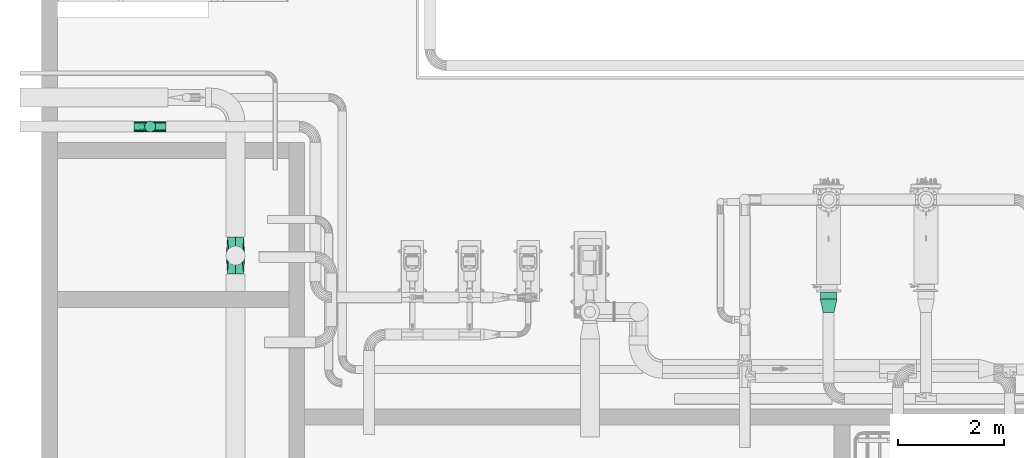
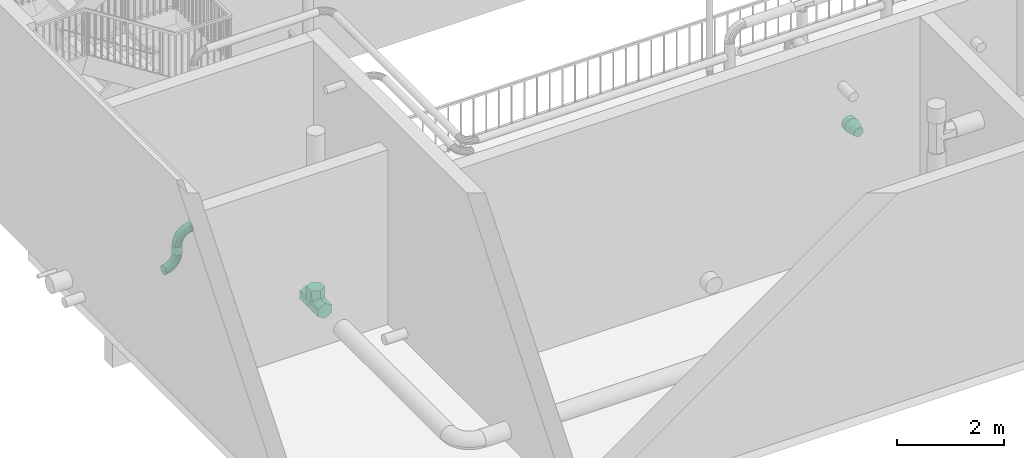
# One storey, part 16 of 28: 4 flow fittings, 2 flow segments.
"""IFC2X3 building model written with IfcOpenShell, lengths in millimetres."""

import ifcopenshell
import ifcopenshell.guid

model = None  # the IFC model being written
_history = None  # IfcOwnerHistory: only IFC2X3 demands one
_inside = {}  # id of a spatial element -> (the spatial element, [elements in it])
_under = {}  # id of a project, library or spatial element -> (it, [spatial elements below it])
_declared = {}  # id of a project -> (the project, [libraries it declares])
_typed = {}  # id of a type object -> (the type object, [elements of that type])
_made_of = {}  # id of a material, layer set ... -> (it, [elements and type objects made of it])


def new_model(schema):
    """Start an empty IFC model of exactly this schema.

    Asked for "IFC4X3", IfcOpenShell would pick the latest addendum, in which some entities
    have other attributes; the version numbers below select the first issue.
    IFC2X3 requires an IfcOwnerHistory on every rooted entity: one is made here for all.
    """
    global model, _history
    if schema == "IFC4X3":
        model = ifcopenshell.file(schema_version=(4, 3, 0, 0))
    else:
        model = ifcopenshell.file(schema=schema)
    _inside.clear()
    _under.clear()
    _declared.clear()
    _typed.clear()
    _made_of.clear()
    _history = None
    if model.schema == "IFC2X3":
        org = make("IfcOrganization", Name="unknown")
        user = make(
            "IfcPersonAndOrganization",
            ThePerson=make("IfcPerson", FamilyName="unknown"),
            TheOrganization=org,
        )
        app = make(
            "IfcApplication",
            ApplicationDeveloper=org,
            Version="unknown",
            ApplicationFullName="unknown",
            ApplicationIdentifier="unknown",
        )
        _history = make(
            "IfcOwnerHistory",
            OwningUser=user,
            OwningApplication=app,
            ChangeAction="ADDED",
            CreationDate=0,
        )
    return model


def make(cls, **values):
    """One entity of the class cls with the attributes given. An attribute that is None is left unset."""
    return model.create_entity(
        cls, **{name: value for name, value in values.items() if value is not None}
    )


def entity(cls, *values):
    """Any entity or typed value of the class cls, its attributes in the order of the schema. None: left unset."""
    e = model.create_entity(cls)
    for i, value in enumerate(values):
        if value is not None:
            e[i] = value
    return e


def rooted(cls, **values):
    """An entity with a GlobalId (a new one), such as an element, a storey or a relation."""
    return make(cls, GlobalId=ifcopenshell.guid.new(), OwnerHistory=_history, **values)


def si_unit(unit_type, name, prefix=None):
    """IfcSIUnit, for example si_unit("LENGTHUNIT", "METRE", prefix="MILLI")."""
    return make("IfcSIUnit", UnitType=unit_type, Prefix=prefix, Name=name)


def converted_unit(unit_type, name, factor, base, dimensions=None, offset=None):
    """IfcConversionBasedUnit, such as the inch: factor (a typed value) times the base unit."""
    return make(
        "IfcConversionBasedUnit"
        if offset is None
        else "IfcConversionBasedUnitWithOffset",
        ConversionOffset=offset,
        Dimensions=None
        if dimensions is None
        else entity("IfcDimensionalExponents", *dimensions),
        UnitType=unit_type,
        Name=name,
        ConversionFactor=make(
            "IfcMeasureWithUnit", ValueComponent=factor, UnitComponent=base
        ),
    )


def assignment(units):
    """IfcUnitAssignment: the units of a project."""
    return None if units is None else make("IfcUnitAssignment", Units=units)


def point(xyz):
    """IfcCartesianPoint."""
    return None if xyz is None else make("IfcCartesianPoint", Coordinates=xyz)


def direction(xyz):
    """IfcDirection."""
    return None if xyz is None else make("IfcDirection", DirectionRatios=xyz)


def frame(location, z_axis=None, x_axis=None):
    """IfcAxis2Placement3D, a coordinate frame: its origin and axes. An axis left out is left unset."""
    return make(
        "IfcAxis2Placement3D",
        Location=point(location),
        Axis=direction(z_axis),
        RefDirection=direction(x_axis),
    )


def frame_2d(location, x_axis=None):
    """IfcAxis2Placement2D, a coordinate frame in the plane: its origin and x axis."""
    return make(
        "IfcAxis2Placement2D", Location=point(location), RefDirection=direction(x_axis)
    )


def origin():
    """The frame at (0, 0, 0) with its axes left unset."""
    return frame((0.0, 0.0, 0.0))


def origin_2d_with_axis():
    """The frame at (0, 0) in the plane with the x axis (1, 0) written out."""
    return frame_2d((0.0, 0.0), x_axis=(1.0, 0.0))


def place(relative_to, where):
    """IfcLocalPlacement: puts the frame where relative to a parent placement (None: the world)."""
    return make(
        "IfcLocalPlacement", PlacementRelTo=relative_to, RelativePlacement=where
    )


def context(
    kind, dimensions, precision=None, world=None, true_north=None, identifier=None
):
    """IfcGeometricRepresentationContext, for example the 3D "Model" context."""
    return make(
        "IfcGeometricRepresentationContext",
        ContextIdentifier=identifier,
        ContextType=kind,
        CoordinateSpaceDimension=dimensions,
        Precision=precision,
        WorldCoordinateSystem=world,
        TrueNorth=true_north,
    )


def subcontext(parent, identifier, kind, view, scale=None):
    """IfcGeometricRepresentationSubContext, for example "Body" below "Model"."""
    return make(
        "IfcGeometricRepresentationSubContext",
        ContextIdentifier=identifier,
        ContextType=kind,
        ParentContext=parent,
        TargetScale=scale,
        TargetView=view,
    )


def project(units=None, contexts=None):
    """IfcProject with its units and contexts."""
    return rooted(
        "IfcProject",
        Name="project",
        RepresentationContexts=contexts,
        UnitsInContext=assignment(units),
    )


def spatial(cls, under=None, at=None, **own):
    """A site, building, storey or space (cls), placed at a placement, below another one or the project."""
    s = rooted(cls, ObjectPlacement=at, **own)
    if under is not None:
        _under.setdefault(under.id(), (under, []))[1].append(s)
    return s


def profile(cls, at=None, kind="AREA", **sizes):
    """A parametric profile (cls). Its sizes go by their IFC names, for example OverallWidth=200.0."""
    return make(cls, ProfileType=kind, Position=at, **sizes)


def circle(**sizes):
    """IfcCircleProfileDef."""
    return profile("IfcCircleProfileDef", **sizes)


def extrude(swept, where, along, depth):
    """IfcExtrudedAreaSolid: the profile swept, set in the frame where, extruded along a direction by depth."""
    return make(
        "IfcExtrudedAreaSolid",
        SweptArea=swept,
        Position=where,
        ExtrudedDirection=direction(along),
        Depth=depth,
    )


def faces_of(points, faces, orient=None, outer=None):
    """IfcFace entities. A face is a list of loops; a loop is a list of indices into points, from 0.

    orient and outer hold one flag for each loop. By default every Orientation is true, the
    first loop of a face is its IfcFaceOuterBound and the others are IfcFaceBound.
    """
    made = []
    for i, loops in enumerate(faces):
        bounds = []
        for j, loop in enumerate(loops):
            is_outer = j == 0 if outer is None else outer[i][j]
            bounds.append(
                make(
                    "IfcFaceOuterBound" if is_outer else "IfcFaceBound",
                    Bound=make("IfcPolyLoop", Polygon=[points[k] for k in loop]),
                    Orientation=True if orient is None else orient[i][j],
                )
            )
        made.append(make("IfcFace", Bounds=bounds))
    return made


def faceted_brep(points, faces, orient=None, outer=None, voids=None):
    """IfcFacetedBrep: a solid bounded by flat faces; with voids (closed shells), ...WithVoids."""
    shared = [point(p) for p in points]
    hull = make("IfcClosedShell", CfsFaces=faces_of(shared, faces, orient, outer))
    if voids is None:
        return make("IfcFacetedBrep", Outer=hull)
    return make(
        "IfcFacetedBrepWithVoids",
        Outer=hull,
        Voids=[
            make(cls, CfsFaces=faces_of(shared, fs, o, b)) for cls, fs, o, b in voids
        ],
    )


def shape(context_of_items, identifier, shape_type, items):
    """IfcShapeRepresentation: the items that make up one representation, for example the "Body"."""
    return make(
        "IfcShapeRepresentation",
        ContextOfItems=context_of_items,
        RepresentationIdentifier=identifier,
        RepresentationType=shape_type,
        Items=items,
    )


def source(mapping_origin, context_of_items, identifier, shape_type, items):
    """IfcRepresentationMap: a shape defined once, which mapped items show again and again."""
    return make(
        "IfcRepresentationMap",
        MappingOrigin=mapping_origin,
        MappedRepresentation=shape(context_of_items, identifier, shape_type, items),
    )


def transform(
    local_origin,
    x_axis=None,
    y_axis=None,
    z_axis=None,
    scale=None,
    scale2=None,
    scale3=None,
    uniform=True,
):
    """IfcCartesianTransformationOperator3D, or its non-uniform kind. x_axis, y_axis, z_axis: its Axis1, 2, 3."""
    if uniform:
        return make(
            "IfcCartesianTransformationOperator3D",
            Axis1=direction(x_axis),
            Axis2=direction(y_axis),
            LocalOrigin=point(local_origin),
            Scale=scale,
            Axis3=direction(z_axis),
        )
    return make(
        "IfcCartesianTransformationOperator3DnonUniform",
        Axis1=direction(x_axis),
        Axis2=direction(y_axis),
        LocalOrigin=point(local_origin),
        Scale=scale,
        Axis3=direction(z_axis),
        Scale2=scale2,
        Scale3=scale3,
    )


def mapped(mapping_source, mapping_target):
    """IfcMappedItem: shows the shape of a source again, moved by a transform."""
    return make(
        "IfcMappedItem", MappingSource=mapping_source, MappingTarget=mapping_target
    )


def material(Name=None, Category=None):
    """IfcMaterial."""
    return make("IfcMaterial", Name=Name, Category=Category)


def made_of(thing, what):
    """Note that an element or type object is made of a material, layer set ...; save() writes the relation."""
    if what is not None:
        _made_of.setdefault(what.id(), (what, []))[1].append(thing)
    return thing


def type_object(cls, material=None, **own):
    """A type object (cls), such as IfcWallType, which elements share."""
    return made_of(rooted(cls, **own), material)


def type_shapes(of_type, sources):
    """Give a type object the sources (RepresentationMaps) that its elements show as mapped items."""
    of_type.RepresentationMaps = sources


def element(
    cls,
    number,
    at=None,
    inside=None,
    cuts=None,
    type_object=None,
    material=None,
    context=None,
    identifier="Body",
    shape_type=None,
    held_by="IfcProductDefinitionShape",
    body=None,
    shapes=None,
    **own,
):
    """One element of the class cls, such as IfcWall. Its Tag is "e" and its number.

    at: its placement. inside: the storey or other place that contains it. cuts: it is an
    opening in that element (IfcRelVoidsElement). A single representation is given by context,
    identifier, shape_type and body (its items); several are given by shapes. held_by: the class
    of the entity that holds the representations. save() writes the other relations.
    """
    e = rooted(cls, Tag="e%d" % number, ObjectPlacement=at, **own)
    if body is not None:
        shapes = [shape(context, identifier, shape_type, body)]
    if shapes is not None:
        e.Representation = make(held_by, Representations=shapes)
    if inside is not None:
        _inside.setdefault(inside.id(), (inside, []))[1].append(e)
    if cuts is not None:
        rooted(
            "IfcRelVoidsElement", RelatingBuildingElement=cuts, RelatedOpeningElement=e
        )
    if type_object is not None:
        _typed.setdefault(type_object.id(), (type_object, []))[1].append(e)
    return made_of(e, material)


def aggregate(whole, parts):
    """IfcRelAggregates: a whole, such as a stair, and the parts it consists of."""
    return rooted("IfcRelAggregates", RelatingObject=whole, RelatedObjects=parts)


def save(model, path):
    """Write the relations noted so far, then the file.

    IfcRelAggregates (storeys below a building ...), IfcRelContainedInSpatialStructure (elements
    in a storey), IfcRelDefinesByType, IfcRelAssociatesMaterial and IfcRelDeclares: one each for
    every whole, place, type object, material and project.
    """
    for whole, parts in _under.values():
        aggregate(whole, parts)
    for where, things in _inside.values():
        rooted(
            "IfcRelContainedInSpatialStructure",
            RelatedElements=things,
            RelatingStructure=where,
        )
    for kind, things in _typed.values():
        rooted("IfcRelDefinesByType", RelatedObjects=things, RelatingType=kind)
    for what, things in _made_of.values():
        rooted("IfcRelAssociatesMaterial", RelatedObjects=things, RelatingMaterial=what)
    for by, libraries in _declared.values():
        rooted("IfcRelDeclares", RelatingContext=by, RelatedDefinitions=libraries)
    model.write(path)


model = new_model("IFC2X3")

# Units and contexts
model_context = context("Model", 3, precision=0.01, world=origin(), true_north=direction((6.123031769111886e-17, 1.0)))
body_context = subcontext(model_context, "Body", "Model", "MODEL_VIEW")
ifc_project = project(units=[si_unit("LENGTHUNIT", "METRE", prefix="MILLI"), converted_unit("PLANEANGLEUNIT", "DEGREE", entity("IfcPlaneAngleMeasure", 0.017453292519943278), si_unit("PLANEANGLEUNIT", "RADIAN"), dimensions=[0, 0, 0, 0, 0, 0, 0]), si_unit("AREAUNIT", "SQUARE_METRE")], contexts=[model_context])

# Site, building, storey
site_placement = place(None, frame((7776.576483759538, 118.3519876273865, 0.0)))
site = spatial("IfcSite", under=ifc_project, at=site_placement, Name="Default", CompositionType="ELEMENT")
building_placement = place(site_placement, origin())
building = spatial("IfcBuilding", under=site, at=building_placement, Name="Bygning (endres i Project Information)", CompositionType="ELEMENT")
storey_placement = place(building_placement, frame((0.0, 0.0, 14000.0)))
storey = spatial("IfcBuildingStorey", under=building, at=storey_placement, Name="Plan U1 - Arbeid", CompositionType="ELEMENT", Elevation=14000.000000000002)

# Flow segments
ifc_material = material(Name="SS 2343 Rustfritt stål, prosessrør, generisk")
pipe_segment_type = type_object("IfcPipeSegmentType", Name="Pipe Types:AISI 304L Rustfritt", PredefinedType="NOTDEFINED", material=ifc_material)
flow_segment_1_placement = place(storey_placement, origin())
element("IfcFlowSegment", 1, at=flow_segment_1_placement, inside=storey, type_object=pipe_segment_type, Name="Pipe Types:AISI 304L Rustfritt", ObjectType="Pipe Types:AISI 304L Rustfritt", context=body_context, shape_type="SweptSolid", body=[
    extrude(circle(Radius=153.0, at=origin_2d_with_axis()), frame((27667.696048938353, 26559.95730578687, 903.4999999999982), z_axis=(0.0, 0.9999999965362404, 8.323172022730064e-05), x_axis=(1.0, 0.0, 0.0)), (0.0, 0.0, 1.0), 135.41027408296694),
])
flow_segment_2_placement = place(storey_placement, origin())
element("IfcFlowSegment", 2, at=flow_segment_2_placement, inside=storey, type_object=pipe_segment_type, Name="Pipe Types:AISI 304L Rustfritt", ObjectType="Pipe Types:AISI 304L Rustfritt", context=body_context, shape_type="SweptSolid", body=[
    extrude(circle(Radius=103.0, at=frame_2d((0.0, 4.331468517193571e-12), x_axis=(1.0, 0.0))), frame((14919.001374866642, 29800.75730578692, 503.0)), (0.0, 0.0, 1.0), 182.01237997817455),
])

# Flow fittings
pipe_fitting_type_1 = type_object("IfcPipeFittingType", Name="VA_prosess_rustfritt_bend_D+100:VA_prosess_rustfritt_bend_D+100", PredefinedType="NOTDEFINED", material=ifc_material)
shared_shape_1 = source(origin(), body_context, "Body", "Brep", [
    faceted_brep([(-221.96387119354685, -92.314112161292, 0.0), (-223.1404097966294, -86.39925317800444, 34.202014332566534), (-300.0, -93.96926207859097, 34.202014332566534), (-300.0, -100.0, 0.0), (-226.52811768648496, -69.36809551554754, 64.27876096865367), (-300.0, -76.60444431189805, 64.27876096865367), (-231.71838729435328, -43.274848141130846, 86.60254037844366), (-300.0, -50.0, 86.60254037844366), (-238.08519550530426, -11.266741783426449, 98.48077530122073), (-300.0, -17.36481776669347, 98.48077530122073), (-244.86061128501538, 22.79557354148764, 98.48077530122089), (-300.0, 17.36481776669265, 98.48077530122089), (-251.22741949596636, 54.80367989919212, 86.60254037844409), (-300.0, 50.0, 86.60254037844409), (-256.41768910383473, 80.89692727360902, 64.27876096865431), (-300.0, 76.60444431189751, 64.27876096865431), (-259.8053969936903, 97.92808493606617, 34.202014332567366), (-300.0, 93.96926207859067, 34.202014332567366), (-260.9819355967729, 103.84294391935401, 0.0), (-300.0, 100.0, 0.0), (-259.8053969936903, 97.92808493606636, -34.20201433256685), (-300.0, 93.96926207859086, -34.20201433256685), (-256.4176891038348, 80.89692727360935, -64.2787609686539), (-300.0, 76.60444431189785, -64.2787609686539), (-251.22741949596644, 54.80367989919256, -86.60254037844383), (-300.0, 50.0, -86.60254037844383), (-244.86061128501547, 22.795573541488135, -98.48077530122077), (-300.0, 17.364817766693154, -98.48077530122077), (-238.08519550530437, -11.26674178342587, -98.48077530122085), (-300.0, -17.36481776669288, -98.48077530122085), (-231.71838729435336, -43.27484814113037, -86.60254037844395), (-300.0, -50.0, -86.60254037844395), (-226.52811768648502, -69.3680955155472, -64.27876096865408), (-300.0, -76.6044443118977, -64.27876096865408), (-223.14040979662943, -86.39925317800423, -34.2020143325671), (-300.0, -93.96926207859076, -34.2020143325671), (-146.9266270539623, -69.55181300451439, 0.0), (-149.2344905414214, -63.98013767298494, 34.202014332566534), (-155.87971860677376, -47.937137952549, 64.27876096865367), (-166.06079867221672, -23.357836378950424, 86.60254037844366), (-178.54974222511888, 6.79314052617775, 98.48077530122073), (-191.8401983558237, 38.87913996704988, 98.48077530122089), (-204.32914190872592, 69.03011687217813, 86.60254037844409), (-214.51022197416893, 93.6094184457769, 64.27876096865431), (-221.15545003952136, 109.65241816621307, 34.202014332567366), (-223.46331352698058, 115.2240934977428, 0.0), (-221.15545003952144, 109.65241816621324, -34.20201433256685), (-214.51022197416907, 93.60941844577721, -64.2787609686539), (-204.3291419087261, 69.03011687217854, -86.60254037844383), (-191.8401983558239, 38.87913996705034, -98.48077530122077), (-178.5497422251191, 6.7931405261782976, -98.48077530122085), (-166.0607986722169, -23.357836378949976, -86.60254037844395), (-155.8797186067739, -47.937137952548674, -64.27876096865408), (-149.23449054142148, -63.98013767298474, -34.2020143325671), (-77.77190679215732, -32.58784492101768, 0.0), (-81.12240526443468, -27.573469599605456, 34.202014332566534), (-90.76978111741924, -13.135151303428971, 64.27876096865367), (-105.5504184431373, 8.985635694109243, 86.60254037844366), (-123.68155424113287, 36.120798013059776, 98.48077530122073), (-142.97630594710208, 64.997434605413, 98.48077530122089), (-161.1074417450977, 92.13259692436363, 86.60254037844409), (-175.88807907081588, 114.253383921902, 64.27876096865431), (-185.53545492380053, 128.69170221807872, 34.202014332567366), (-188.88595339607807, 133.70607753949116, 0.0), (-185.53545492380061, 128.69170221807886, -34.20201433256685), (-175.88807907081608, 114.25338392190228, -64.2787609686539), (-161.10744174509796, 92.132596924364, -86.60254037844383), (-142.97630594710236, 64.99743460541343, -98.48077530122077), (-123.68155424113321, 36.120798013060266, -98.48077530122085), (-105.55041844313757, 8.985635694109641, -86.60254037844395), (-90.76978111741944, -13.135151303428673, -64.27876096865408), (-81.12240526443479, -27.573469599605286, -34.2020143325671), (-17.15728752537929, 17.157287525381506, 0.0), (-21.421663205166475, 21.42166320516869, 34.202014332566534), (-33.70044360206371, 33.700443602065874, 64.27876096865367), (-52.51262658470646, 52.512626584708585, 86.60254037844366), (-75.58918524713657, 75.58918524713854, 98.48077530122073), (-100.14674604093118, 100.14674604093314, 98.48077530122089), (-123.22330470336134, 123.22330470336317, 86.60254037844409), (-142.03548768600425, 142.035487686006, 64.27876096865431), (-154.3142680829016, 154.3142680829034, 34.202014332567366), (-158.578643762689, 158.57864376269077, 0.0), (-154.31426808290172, 154.31426808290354, -34.20201433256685), (-142.03548768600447, 142.03548768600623, -64.2787609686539), (-123.22330470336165, 123.2233047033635, -86.60254037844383), (-100.14674604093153, 100.1467460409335, -98.48077530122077), (-75.58918524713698, 75.58918524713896, -98.48077530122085), (-52.51262658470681, 52.512626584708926, -86.60254037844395), (-33.700443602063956, 33.70044360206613, -64.27876096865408), (-21.42166320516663, 21.421663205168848, -34.2020143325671), (32.58784492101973, 77.77190679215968, 0.0), (27.573469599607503, 81.12240526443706, 34.202014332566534), (13.135151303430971, 90.76978111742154, 64.27876096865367), (-8.985635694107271, 105.55041844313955, 86.60254037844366), (-36.1207980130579, 123.68155424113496, 98.48077530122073), (-64.99743460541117, 142.97630594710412, 98.48077530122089), (-92.13259692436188, 161.10744174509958, 86.60254037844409), (-114.25338392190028, 175.88807907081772, 64.27876096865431), (-128.69170221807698, 185.53545492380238, 34.202014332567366), (-133.70607753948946, 188.8859533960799, 0.0), (-128.69170221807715, 185.5354549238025, -34.20201433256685), (-114.25338392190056, 175.8880790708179, -64.2787609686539), (-92.13259692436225, 161.10744174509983, -86.60254037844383), (-64.99743460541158, 142.9763059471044, -98.48077530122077), (-36.12079801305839, 123.68155424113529, -98.48077530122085), (-8.985635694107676, 105.55041844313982, -86.60254037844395), (13.13515130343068, 90.76978111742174, -64.27876096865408), (27.573469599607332, 81.12240526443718, -34.2020143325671), (69.55181300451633, 146.92662705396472, 0.0), (63.98013767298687, 149.23449054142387, 34.202014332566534), (47.937137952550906, 155.87971860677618, 64.27876096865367), (23.357836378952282, 166.06079867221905, 86.60254037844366), (-6.793140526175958, 178.54974222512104, 98.48077530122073), (-38.879139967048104, 191.8401983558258, 98.48077530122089), (-69.03011687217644, 204.32914190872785, 86.60254037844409), (-93.60941844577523, 214.5102219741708, 64.27876096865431), (-109.65241816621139, 221.15545003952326, 34.202014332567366), (-115.22409349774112, 223.46331352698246, 0.0), (-109.65241816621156, 221.15545003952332, -34.20201433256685), (-93.60941844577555, 214.51022197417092, -64.2787609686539), (-69.03011687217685, 204.32914190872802, -86.60254037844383), (-38.87913996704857, 191.840198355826, -98.48077530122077), (-6.793140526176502, 178.54974222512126, -98.48077530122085), (23.357836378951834, 166.06079867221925, -86.60254037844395), (47.93713795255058, 155.87971860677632, -64.27876096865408), (63.98013767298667, 149.23449054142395, -34.2020143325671), (92.31411216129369, 221.96387119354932, 0.0), (86.39925317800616, 223.1404097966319, 34.202014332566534), (69.36809551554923, 226.52811768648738, 64.27876096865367), (43.27484814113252, 231.71838729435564, 86.60254037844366), (11.266741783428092, 238.08519550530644, 98.48077530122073), (-22.795573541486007, 244.86061128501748, 98.48077530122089), (-54.80367989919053, 251.22741949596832, 86.60254037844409), (-80.89692727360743, 256.4176891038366, 64.27876096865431), (-97.9280849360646, 259.80539699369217, 34.202014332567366), (-103.84294391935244, 260.9819355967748, 0.0), (-97.92808493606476, 259.8053969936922, -34.20201433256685), (-80.89692727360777, 256.41768910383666, -64.2787609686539), (-54.80367989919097, 251.2274194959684, -86.60254037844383), (-22.795573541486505, 244.8606112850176, -98.48077530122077), (11.266741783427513, 238.08519550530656, -98.48077530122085), (43.27484814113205, 231.71838729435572, -86.60254037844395), (69.36809551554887, 226.52811768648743, -64.27876096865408), (86.39925317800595, 223.14040979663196, -34.2020143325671), (100.0, 300.0, 0.0), (93.96926207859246, 300.0, 34.202014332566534), (76.60444431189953, 300.0, 64.27876096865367), (50.0, 300.0, 86.60254037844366), (17.36481776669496, 300.0, 98.48077530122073), (-17.36481776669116, 300.0, 98.48077530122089), (-50.0, 300.0, 86.60254037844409), (-76.60444431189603, 300.0, 64.27876096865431), (-93.9692620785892, 300.0, 34.202014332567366), (-100.0, 300.0, 0.0), (-93.96926207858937, 300.0, -34.20201433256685), (-76.60444431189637, 300.0, -64.2787609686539), (-50.0, 300.0, -86.60254037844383), (-17.364817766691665, 300.0, -98.48077530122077), (17.36481776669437, 300.0, -98.48077530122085), (50.0, 300.0, -86.60254037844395), (76.60444431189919, 300.0, -64.27876096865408), (93.96926207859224, 300.0, -34.2020143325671)], [[[0, 1, 2, 3]], [[1, 4, 5, 2]], [[4, 6, 7, 5]], [[6, 8, 9, 7]], [[8, 10, 11, 9]], [[10, 12, 13, 11]], [[12, 14, 15, 13]], [[14, 16, 17, 15]], [[16, 18, 19, 17]], [[18, 20, 21, 19]], [[20, 22, 23, 21]], [[22, 24, 25, 23]], [[24, 26, 27, 25]], [[26, 28, 29, 27]], [[28, 30, 31, 29]], [[30, 32, 33, 31]], [[32, 34, 35, 33]], [[34, 0, 3, 35]], [[36, 37, 1, 0]], [[37, 38, 4, 1]], [[38, 39, 6, 4]], [[39, 40, 8, 6]], [[40, 41, 10, 8]], [[41, 42, 12, 10]], [[42, 43, 14, 12]], [[43, 44, 16, 14]], [[44, 45, 18, 16]], [[45, 46, 20, 18]], [[46, 47, 22, 20]], [[47, 48, 24, 22]], [[48, 49, 26, 24]], [[49, 50, 28, 26]], [[50, 51, 30, 28]], [[51, 52, 32, 30]], [[52, 53, 34, 32]], [[53, 36, 0, 34]], [[54, 55, 37, 36]], [[55, 56, 38, 37]], [[56, 57, 39, 38]], [[57, 58, 40, 39]], [[58, 59, 41, 40]], [[59, 60, 42, 41]], [[60, 61, 43, 42]], [[61, 62, 44, 43]], [[62, 63, 45, 44]], [[63, 64, 46, 45]], [[64, 65, 47, 46]], [[65, 66, 48, 47]], [[66, 67, 49, 48]], [[67, 68, 50, 49]], [[68, 69, 51, 50]], [[69, 70, 52, 51]], [[70, 71, 53, 52]], [[71, 54, 36, 53]], [[72, 73, 55, 54]], [[73, 74, 56, 55]], [[74, 75, 57, 56]], [[75, 76, 58, 57]], [[76, 77, 59, 58]], [[77, 78, 60, 59]], [[78, 79, 61, 60]], [[79, 80, 62, 61]], [[80, 81, 63, 62]], [[81, 82, 64, 63]], [[82, 83, 65, 64]], [[83, 84, 66, 65]], [[84, 85, 67, 66]], [[85, 86, 68, 67]], [[86, 87, 69, 68]], [[87, 88, 70, 69]], [[88, 89, 71, 70]], [[89, 72, 54, 71]], [[90, 91, 73, 72]], [[91, 92, 74, 73]], [[92, 93, 75, 74]], [[93, 94, 76, 75]], [[94, 95, 77, 76]], [[95, 96, 78, 77]], [[96, 97, 79, 78]], [[97, 98, 80, 79]], [[98, 99, 81, 80]], [[99, 100, 82, 81]], [[100, 101, 83, 82]], [[101, 102, 84, 83]], [[102, 103, 85, 84]], [[103, 104, 86, 85]], [[104, 105, 87, 86]], [[105, 106, 88, 87]], [[106, 107, 89, 88]], [[107, 90, 72, 89]], [[108, 109, 91, 90]], [[109, 110, 92, 91]], [[110, 111, 93, 92]], [[111, 112, 94, 93]], [[112, 113, 95, 94]], [[113, 114, 96, 95]], [[114, 115, 97, 96]], [[115, 116, 98, 97]], [[116, 117, 99, 98]], [[117, 118, 100, 99]], [[118, 119, 101, 100]], [[119, 120, 102, 101]], [[120, 121, 103, 102]], [[121, 122, 104, 103]], [[122, 123, 105, 104]], [[123, 124, 106, 105]], [[124, 125, 107, 106]], [[125, 108, 90, 107]], [[126, 127, 109, 108]], [[127, 128, 110, 109]], [[128, 129, 111, 110]], [[129, 130, 112, 111]], [[130, 131, 113, 112]], [[131, 132, 114, 113]], [[132, 133, 115, 114]], [[133, 134, 116, 115]], [[134, 135, 117, 116]], [[135, 136, 118, 117]], [[136, 137, 119, 118]], [[137, 138, 120, 119]], [[138, 139, 121, 120]], [[139, 140, 122, 121]], [[140, 141, 123, 122]], [[141, 142, 124, 123]], [[142, 143, 125, 124]], [[143, 126, 108, 125]], [[144, 145, 127, 126]], [[145, 146, 128, 127]], [[146, 147, 129, 128]], [[147, 148, 130, 129]], [[148, 149, 131, 130]], [[149, 150, 132, 131]], [[150, 151, 133, 132]], [[151, 152, 134, 133]], [[152, 153, 135, 134]], [[153, 154, 136, 135]], [[154, 155, 137, 136]], [[155, 156, 138, 137]], [[156, 157, 139, 138]], [[157, 158, 140, 139]], [[158, 159, 141, 140]], [[159, 160, 142, 141]], [[160, 161, 143, 142]], [[161, 144, 126, 143]], [[3, 2, 5, 7, 9, 11, 13, 15, 17, 19, 21, 23, 25, 27, 29, 31, 33, 35]], [[161, 160, 159, 158, 157, 156, 155, 154, 153, 152, 151, 150, 149, 148, 147, 146, 145, 144]]]),
])
type_shapes(pipe_fitting_type_1, [shared_shape_1])
for number, where, z_axis, x_axis in (
    (3, (14919.001374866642, 29800.757305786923, 985.012379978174), (-9.313084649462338e-08, -1.0, 0.0), (-1.0, 9.313084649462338e-08, 0.0)),
    (4, (14919.001374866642, 29800.757305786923, 203.0), (0.0, 1.0, 0.0), (0.0, 0.0, -1.0)),
):
    element("IfcFlowFitting", number, at=place(storey_placement, frame(where, z_axis=z_axis, x_axis=x_axis)), inside=storey, type_object=pipe_fitting_type_1, material=ifc_material, Name="VA_prosess_rustfritt_bend_D+100:VA_prosess_rustfritt_bend_D+100", ObjectType="VA_prosess_rustfritt_bend_D+100:VA_prosess_rustfritt_bend_D+100", context=body_context, shape_type="MappedRepresentation", body=[
        mapped(shared_shape_1, transform((0.0, 0.0, 0.0), scale=1.0)),
    ])
pipe_fitting_type_2 = type_object("IfcPipeFittingType", Name="VA_prosess_rustfritt_T_D=L:T-rør_prosess_D=L", PredefinedType="NOTDEFINED", material=ifc_material)
shared_shape_2 = source(origin(), body_context, "Body", "Brep", [
    faceted_brep([(-350.0, -175.0, 0.0), (-350.0, -131.24999999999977, 75.77722283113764), (-350.0, -87.50000000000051, 151.55444566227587), (-350.0, 0.0, 151.55444566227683), (-350.0, 87.49999999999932, 151.55444566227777), (-350.0, 131.25000000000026, 75.77722283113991), (-350.0, 175.0, 0.0), (-350.0, 131.25000000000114, -75.77722283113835), (-350.0, 87.50000000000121, -151.5544456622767), (-350.0, 0.0, -151.55444566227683), (-350.0, -87.49999999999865, -151.55444566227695), (-350.0, -131.2499999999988, -75.77722283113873), (350.0, 175.0, 0.0), (350.0, 119.86366475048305, 95.49893399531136), (350.0, 87.4999999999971, 151.55444566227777), (350.0, 0.0, 151.55444566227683), (350.0, -87.50000000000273, 151.55444566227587), (350.0, -131.25000000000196, 75.77722283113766), (350.0, -175.0, 0.0), (350.0, -131.25000000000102, -75.77722283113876), (350.0, -87.50000000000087, -151.55444566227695), (350.0, 0.0, -151.55444566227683), (350.0, 87.49999999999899, -151.5544456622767), (350.0, 131.2499999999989, -75.77722283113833), (175.0, -175.0, 0.0), (158.5814013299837, -158.5814013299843, 74.00634535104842), (-175.0, -175.0, 0.0), (-158.58140132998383, -158.58140132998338, 74.00634535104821), (118.92314669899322, -118.92314669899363, 128.3833524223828), (55.11164726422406, -55.111647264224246, 166.09547355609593), (0.0, 0.0, 175.0), (-106.9956661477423, -106.99566614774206, 138.4807835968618), (-55.11164726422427, -55.11164726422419, 166.0954735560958), (-158.58140132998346, -158.58140132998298, -74.00634535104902), (55.11164726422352, -55.11164726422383, -166.09547355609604), (0.0, 0.0, -175.0), (-118.92314669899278, -118.92314669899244, -128.3833524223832), (-55.111647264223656, -55.111647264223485, -166.09547355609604), (106.99566614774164, -106.99566614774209, -138.4807835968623), (158.5814013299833, -158.58140132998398, -74.00634535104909), (87.50000000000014, -350.0, -151.5544456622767), (131.25000000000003, -350.0, -75.77722283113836), (175.0, -350.0, 0.0), (131.24999999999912, -350.0, 75.7772228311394), (87.49999999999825, -350.0, 151.55444566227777), (0.0, -350.0, 151.5544456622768), (-87.50000000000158, -350.0, 151.55444566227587), (-131.25000000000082, -350.0, 75.77722283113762), (-175.0, -350.0, 0.0), (-131.2499999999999, -350.0, -75.77722283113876), (-87.49999999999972, -350.0, -151.55444566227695), (0.0, -350.0, -151.5544456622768)], [[[0, 1, 2, 3, 4, 5, 6, 7, 8, 9, 10, 11]], [[12, 13, 14, 15, 16, 17, 18, 19, 20, 21, 22, 23]], [[24, 18, 25]], [[0, 26, 27]], [[12, 6, 5, 4, 14, 13]], [[28, 25, 17]], [[17, 16, 28]], [[0, 27, 1]], [[29, 15, 30]], [[1, 31, 2]], [[25, 18, 17]], [[31, 1, 27]], [[29, 16, 15]], [[30, 15, 14]], [[32, 30, 3]], [[2, 31, 32]], [[14, 4, 30]], [[3, 2, 32]], [[30, 4, 3]], [[28, 16, 29]], [[8, 7, 6, 12, 23, 22]], [[33, 0, 11]], [[34, 35, 21]], [[21, 20, 34]], [[8, 22, 35]], [[9, 8, 35]], [[36, 10, 37]], [[10, 9, 37]], [[37, 9, 35]], [[19, 38, 20]], [[39, 19, 18]], [[18, 24, 39]], [[33, 26, 0]], [[35, 22, 21]], [[38, 19, 39]], [[10, 36, 11]], [[11, 36, 33]], [[38, 34, 20]], [[40, 41, 42, 43, 44, 45, 46, 47, 48, 49, 50, 51]], [[27, 26, 48]], [[46, 31, 47]], [[43, 42, 25]], [[47, 31, 27]], [[27, 48, 47]], [[31, 46, 32]], [[28, 43, 25]], [[25, 42, 24]], [[45, 44, 29, 32, 46]], [[43, 28, 44]], [[29, 30, 32]], [[44, 28, 29]], [[24, 42, 39]], [[40, 38, 41]], [[49, 48, 33]], [[41, 38, 39]], [[39, 42, 41]], [[38, 40, 34]], [[36, 49, 33]], [[33, 48, 26]], [[51, 50, 37, 34, 40]], [[49, 36, 50]], [[37, 35, 34]], [[50, 36, 37]]]),
])
type_shapes(pipe_fitting_type_2, [shared_shape_2])
flow_fitting_1_placement = place(storey_placement, frame((16524.001374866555, 27376.90344361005, 278.0), z_axis=(-1.0, 0.0, 0.0), x_axis=(0.0, 1.0, 0.0)))
element("IfcFlowFitting", 5, at=flow_fitting_1_placement, inside=storey, type_object=pipe_fitting_type_2, material=ifc_material, Name="VA_prosess_rustfritt_T_D=L:T-rør_prosess_D=L", ObjectType="VA_prosess_rustfritt_T_D=L:T-rør_prosess_D=L", context=body_context, shape_type="MappedRepresentation", body=[
    mapped(shared_shape_2, transform((0.0, 0.0, 0.0), scale=1.0)),
])
pipe_fitting_type_3 = type_object("IfcPipeFittingType", Name="Overganger, konsentriske, rustfritt EN 1,4307304L:Standard", PredefinedType="NOTDEFINED", material=ifc_material)
shared_shape_3 = source(origin(), body_context, "Body", "Brep", [
    faceted_brep([(252.2000000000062, -40.97105483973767, 152.9060583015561), (252.20000000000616, -79.15000000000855, 137.09182141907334), (252.20000000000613, -111.93500346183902, 111.93500346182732), (252.20000000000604, -137.09182141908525, 79.149999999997), (252.20000000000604, -152.9060583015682, 40.971054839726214), (252.200000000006, -158.30000000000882, 0.0), (252.20000000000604, -152.90605830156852, -40.971054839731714), (252.20000000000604, -137.09182141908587, -79.1500000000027), (252.20000000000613, -111.93500346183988, -111.93500346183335), (252.20000000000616, -79.15000000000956, -137.09182141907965), (252.2000000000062, -40.97105483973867, -152.9060583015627), (252.2000000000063, 0.0, -158.30000000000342), (252.20000000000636, 40.971054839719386, -152.9060583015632), (252.2000000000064, 79.14999999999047, -137.09182141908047), (252.20000000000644, 111.93500346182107, -111.93500346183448), (252.20000000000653, 137.09182141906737, -79.15000000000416), (252.20000000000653, 152.90605830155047, -40.971054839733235), (252.20000000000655, 158.2999999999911, 0.0), (252.20000000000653, 152.90605830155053, 40.97105483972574), (252.20000000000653, 137.0918214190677, 79.14999999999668), (252.20000000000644, 111.93500346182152, 111.93500346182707), (252.2000000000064, 79.14999999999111, 137.09182141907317), (252.20000000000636, 40.97105483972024, 152.90605830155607), (252.2000000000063, 0.0, 158.29999999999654), (0.0, 17.71211412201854, 100.45039080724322), (0.0, 51.0, 88.33459118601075), (0.0, 78.13653319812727, 65.56433618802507), (0.0, 95.84864732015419, 34.8860546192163), (0.0, 102.0, 0.0), (0.0, 95.84864732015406, -34.88605461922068), (0.0, 78.13653319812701, -65.5643361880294), (0.0, 51.0, -88.33459118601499), (0.0, 17.71211412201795, -100.4503908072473), (0.0, -17.71211412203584, -100.4503908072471), (0.0, -51.0, -88.33459118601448), (0.0, -78.13653319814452, -65.5643361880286), (0.0, -95.84864732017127, -34.88605461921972), (0.0, -102.0, 0.0), (0.0, -95.84864732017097, 34.8860546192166), (0.0, -78.136533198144, 65.56433618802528), (0.0, -51.0, 88.3345911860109), (0.0, -17.71211412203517, 100.45039080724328)], [[[0, 1, 2, 3, 4, 5, 6, 7, 8, 9, 10, 11, 12, 13, 14, 15, 16, 17, 18, 19, 20, 21, 22, 23]], [[24, 25, 26, 27, 28, 29, 30, 31, 32, 33, 34, 35, 36, 37, 38, 39, 40, 41]], [[6, 37, 36]], [[8, 35, 34]], [[7, 36, 35]], [[10, 34, 33]], [[6, 5, 37]], [[7, 6, 36]], [[34, 9, 8]], [[8, 7, 35]], [[10, 9, 34]], [[33, 11, 10]], [[12, 11, 32]], [[32, 11, 33]], [[31, 12, 32]], [[15, 30, 29]], [[14, 31, 30]], [[16, 29, 28]], [[31, 13, 12]], [[31, 14, 13]], [[15, 14, 30]], [[29, 16, 15]], [[28, 17, 16]], [[18, 28, 27]], [[20, 26, 25]], [[19, 27, 26]], [[22, 25, 24]], [[18, 17, 28]], [[19, 18, 27]], [[25, 21, 20]], [[20, 19, 26]], [[22, 21, 25]], [[24, 23, 22]], [[0, 23, 41]], [[41, 23, 24]], [[40, 0, 41]], [[3, 39, 38]], [[2, 40, 39]], [[4, 38, 37]], [[40, 1, 0]], [[40, 2, 1]], [[3, 2, 39]], [[38, 4, 3]], [[37, 5, 4]]]),
])
type_shapes(pipe_fitting_type_3, [shared_shape_3])
flow_fitting_2_placement = place(storey_placement, frame((27667.696048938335, 26307.757305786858, 903.5000000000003), z_axis=(0.0, 0.0, 1.0), x_axis=(0.0, 1.0, 0.0)))
element("IfcFlowFitting", 6, at=flow_fitting_2_placement, inside=storey, type_object=pipe_fitting_type_3, material=ifc_material, Name="Overganger, konsentriske, rustfritt EN 1,4307304L:Standard", ObjectType="Overganger, konsentriske, rustfritt EN 1,4307304L:Standard", context=body_context, shape_type="MappedRepresentation", body=[
    mapped(shared_shape_3, transform((0.0, 0.0, 0.0), scale=1.0)),
])

save(model, "model.ifc")
